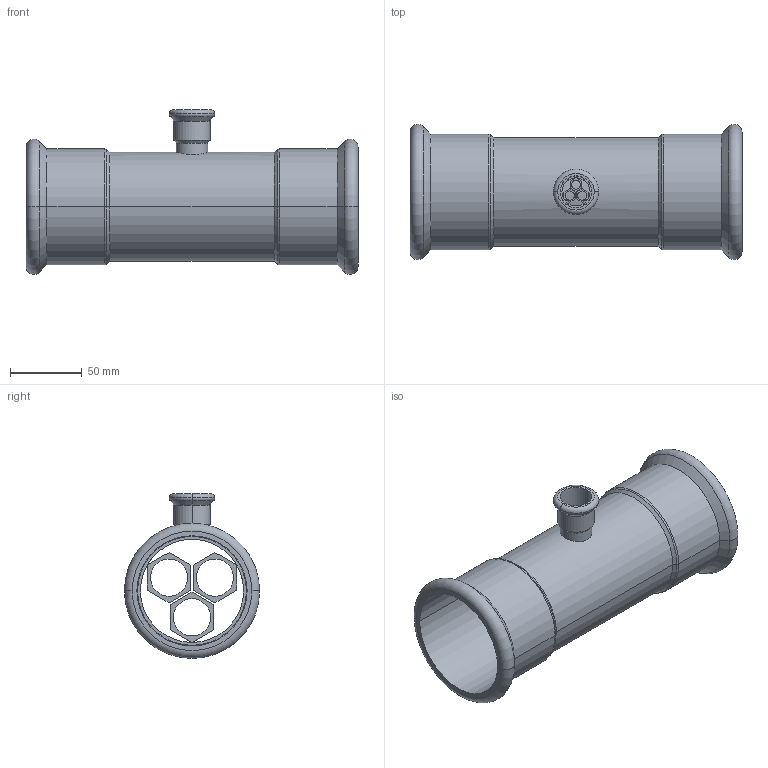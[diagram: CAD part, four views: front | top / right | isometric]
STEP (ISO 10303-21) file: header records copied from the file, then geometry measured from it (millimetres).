
FILE_DESCRIPTION(('OneSpaceDesigner STEP Export'),'2;1');
FILE_NAME('R2715 76x22x76.stp','2010-06-10T 9:16:21',(''),(''),'OneSpace Designer STEP processor for AP214 (Solid Model)','OneSpace Modeling 15.00A 14-Mar-2007 (C) CoCreate Software GmbH','');
FILE_SCHEMA(('AUTOMOTIVE_DESIGN { 1 0 10303 214 1 1 1 1 }'));
Length unit declared in the file: millimetre
Products named in the file (2): R2715_76x22x76
Assembly tree (1 placements, depth 2):
  R2715_76x22x76
    R2715_76x22x76
Bounding box: 232 x 94.48 x 115.24 mm (x, y, z)
Volume: 160460.2 mm3; surface area: 131800.5 mm2
Topology: 1 solids, 1 shells, 168 faces, 419 edges, 270 vertices
Faces by surface type: plane 90, cylinder 54, torus 12, cone 12
Entity records: 5570 total; most frequent: CARTESIAN_POINT 1857, ORIENTED_EDGE 838, DIRECTION 647, EDGE_CURVE 419, VERTEX_POINT 270, VECTOR 263, LINE 263, EDGE_LOOP 205
